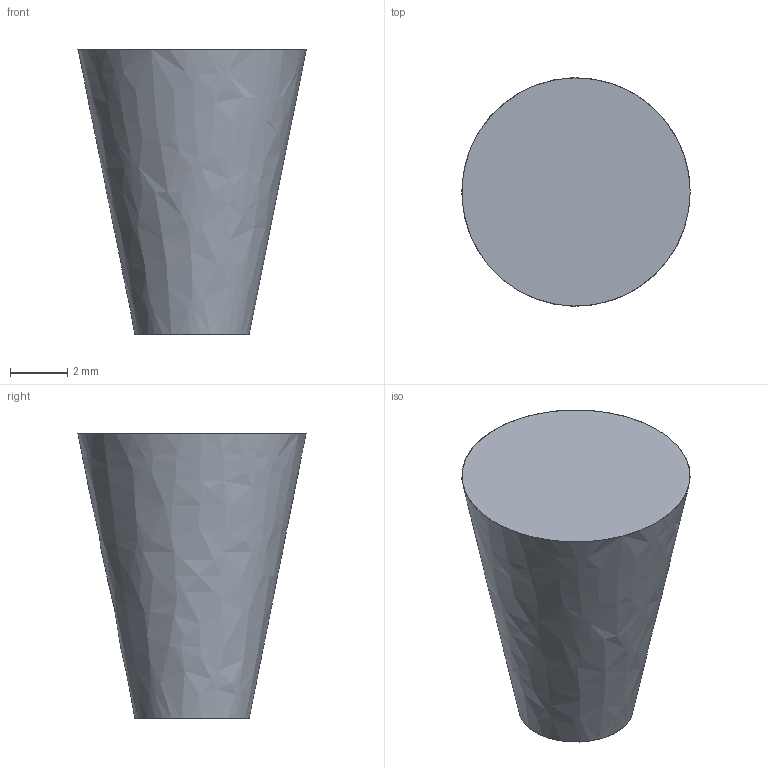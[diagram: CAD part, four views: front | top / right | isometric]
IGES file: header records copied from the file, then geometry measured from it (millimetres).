
Global section: file name: Filename.iges; native system: Open CASCADE 7.5; preprocessor: Open CASCADE IGES processor 7.5; date: 20210907.193403; units: millimetre
Bounding box: 8 x 8 x 10 mm (x, y, z)
Surface area: 255.1 mm2 (no closed solid volume)
Topology: 0 solids, 0 shells, 3 faces, 6 edges, 4 vertices
Faces by surface type: plane 2, revolution 1
